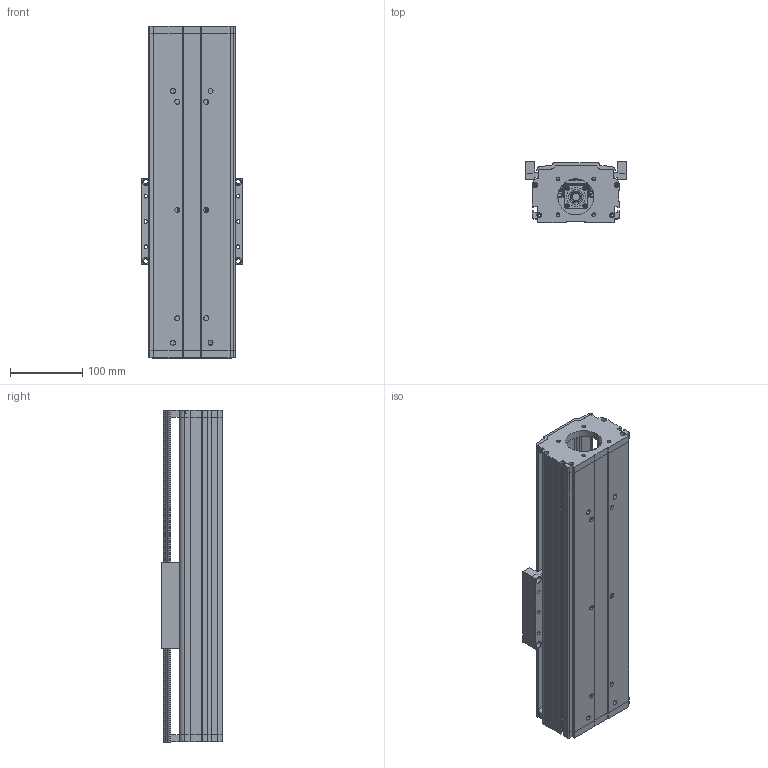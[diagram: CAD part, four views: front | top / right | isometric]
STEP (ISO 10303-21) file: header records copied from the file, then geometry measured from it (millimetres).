
FILE_DESCRIPTION (( 'STEP AP203' ), '1' );
FILE_NAME ('CF120-P250.STEP', '2016-03-10T08:44:38', ( 'Sky123.Org' ), ( 'Sky123.Org' ), 'SwSTEP 2.0', 'SolidWorks 2015', '' );
FILE_SCHEMA (( 'CONFIG_CONTROL_DESIGN' ));
Length unit declared in the file: millimetre
Products named in the file (15): CF120賑雄啣; cf120-60萇儂釱; CF120蹟譫釱; CF120傷裔耜啣-sigan; EGR15-P600-880; EGH-15-CABZnew; EK12+EF12-P600-744; SFU1605-3蹟譫; CF120-P350-540臏倰第; EK12; CF120-P350-560裔啣; 粣創結啣; CF120-P250; EF12
Assembly tree (18 placements, depth 3):
  CF120-P250
    cf120-60萇儂釱
    CF120傷裔耜啣-sigan
    EGH-15-CABZnew  x4
    SFU1605-3蹟譫
    EK12
      EK12
      粣創結啣
    EF12
    CF120賑雄啣
    CF120蹟譫釱
    EGR15-P600-880  x2
    EK12+EF12-P600-744
    CF120-P350-540臏倰第
    CF120-P350-560裔啣
Bounding box: 140 x 84.5 x 460 mm (x, y, z)
Volume: 1878107.3 mm3; surface area: 669075.2 mm2
Topology: 13 solids, 65 shells, 7210 faces, 27315 edges, 18779 vertices
Faces by surface type: plane 3523, bspline 2351, cylinder 946, cone 150, torus 136, sphere 104
Entity records: 129034 total; most frequent: CARTESIAN_POINT 57465, ORIENTED_EDGE 15320, DIRECTION 11854, EDGE_CURVE 8784, VERTEX_POINT 5988, LINE 5160, VECTOR 5160, AXIS2_PLACEMENT_3D 3347
